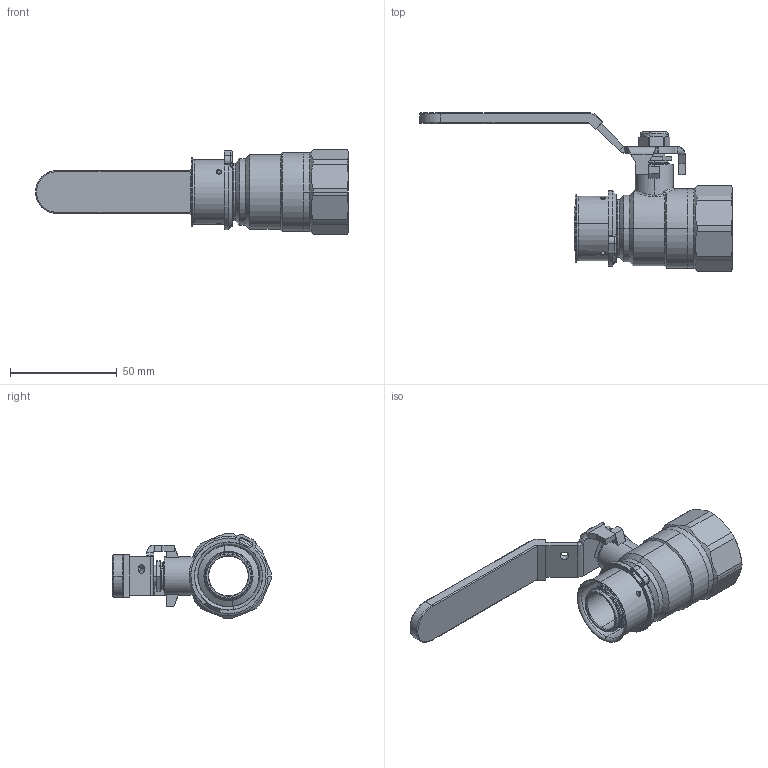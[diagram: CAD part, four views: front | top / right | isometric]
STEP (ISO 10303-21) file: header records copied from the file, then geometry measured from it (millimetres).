
FILE_DESCRIPTION (( 'STEP AP203' ), '1' );
FILE_NAME ('150-725G.STEP', '2026-05-15T01:57:03', ( '' ), ( '' ), 'SwSTEP 2.0', 'SolidWorks 2014', '' );
FILE_SCHEMA (( 'CONFIG_CONTROL_DESIGN' ));
Length unit declared in the file: millimetre
Products named in the file (15): M8滅侂蹟譫; M14ѹñ; 33概裝; 13沓蹋; 笢瘍呿杶; 100概极; 100詩杶; PFN100ｸﾇ; 150-725G; 笢瘍鍼踢忒梟1012; 31球; 7x1.5(O型圈); 3347塑料限位圈100; 忒梟075; 26密封圈
Assembly tree (15 placements, depth 3):
  150-725G
    100概极
    13沓蹋
    33概裝
    7x1.5(O型圈)
    M14ѹñ
    忒梟075
      笢瘍鍼踢忒梟1012
      笢瘍呿杶
    31球
    26密封圈  x2
    M8滅侂蹟譫
    3347塑料限位圈100
    100詩杶
    PFN100ｸﾇ
Bounding box: 146.41 x 74.13 x 39.99 mm (x, y, z)
Volume: 50272.9 mm3; surface area: 48642.6 mm2
Topology: 14 solids, 14 shells, 658 faces, 1627 edges, 1009 vertices
Faces by surface type: cylinder 201, plane 164, cone 153, bspline 72, torus 62, sphere 6
Entity records: 44068 total; most frequent: CARTESIAN_POINT 27865, ORIENTED_EDGE 3198, DIRECTION 2935, EDGE_CURVE 1599, AXIS2_PLACEMENT_3D 1190, VERTEX_POINT 993, EDGE_LOOP 692, ADVANCED_FACE 646
